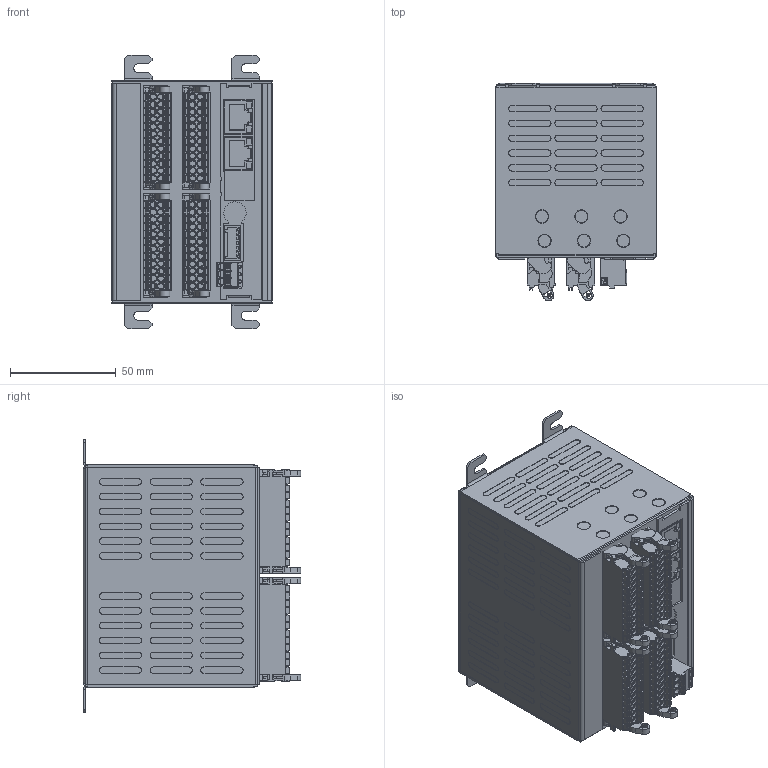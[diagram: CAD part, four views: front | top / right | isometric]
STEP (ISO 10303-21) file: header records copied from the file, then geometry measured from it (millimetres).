
FILE_DESCRIPTION (( 'STEP AP214' ), '1' );
FILE_NAME ('COP-Cube_3Slot.STEP', '2017-03-22T09:48:38', ( '' ), ( '' ), 'SwSTEP 2.0', 'SolidWorks 2016', '' );
FILE_SCHEMA (( 'AUTOMOTIVE_DESIGN' ));
Length unit declared in the file: millimetre
Products named in the file (1): COP-Cube_3Slot
Bounding box: 75.8 x 102.69 x 129.4 mm (x, y, z)
Surface area: 68209.9 mm2 (no closed solid volume)
Topology: 0 solids, 25 shells, 3753 faces, 12151 edges, 8228 vertices
Faces by surface type: plane 1970, cylinder 1447, cone 196, bspline 133, sphere 7
Full cylindrical faces by diameter (mm): 0.6 x8, 3 x96, 3.1 x3
Entity records: 190372 total; most frequent: CARTESIAN_POINT 44033, DIRECTION 22217, ORIENTED_EDGE 20170, EDGE_CURVE 11874, VERTEX_POINT 8179, AXIS2_PLACEMENT_3D 7419, LINE 7379, VECTOR 7379
